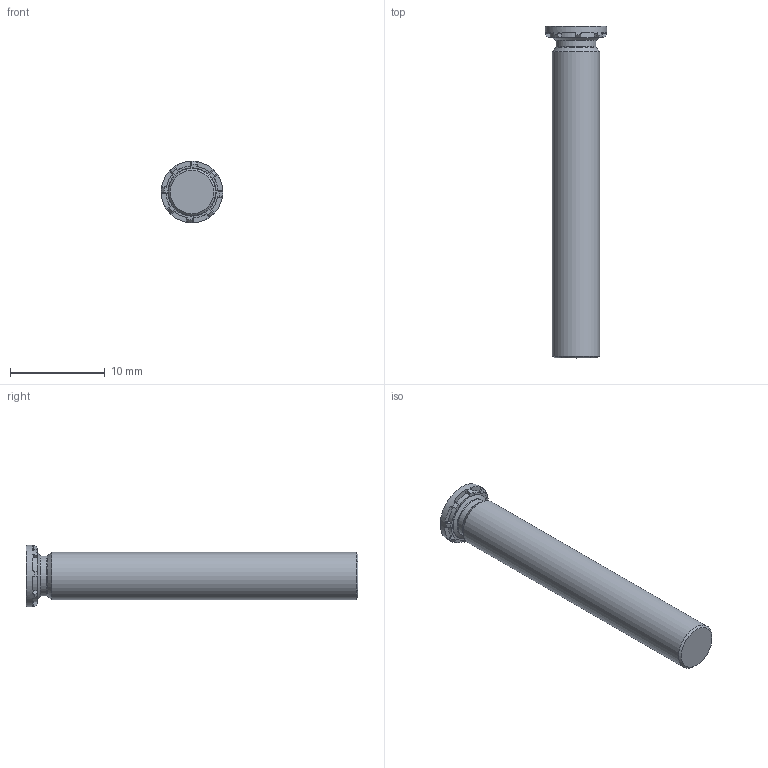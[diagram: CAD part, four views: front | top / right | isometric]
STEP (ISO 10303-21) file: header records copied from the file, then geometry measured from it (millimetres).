
FILE_DESCRIPTION(/* description */ (''),/* implementation_level */ '2;1');
FILE_NAME(/* name */ 'C:\Users\keval.kumar\Desktop\Fastit\Clinch Screw- FH Range\M5\Clinch Screw-FH Range_M5x35.stp',/* time_stamp */ '2024-03-12T12:01:34+06:00',/* author */ ('keval.kumar'),/* organization */ (''),/* preprocessor_version */ 'ST-DEVELOPER v18.1',/* originating_system */ 'Autodesk Inventor 2022',/* authorisation */ '');
FILE_SCHEMA (('AUTOMOTIVE_DESIGN { 1 0 10303 214 3 1 1 }'));
Length unit declared in the file: millimetre
Products named in the file (1): Clinch Screw-FH Range_M5x35
Bounding box: 6.5 x 35 x 6.5 mm (x, y, z)
Volume: 693.1 mm3; surface area: 622.9 mm2
Topology: 1 solids, 1 shells, 68 faces, 193 edges, 128 vertices
Faces by surface type: plane 43, cylinder 12, cone 11, torus 2
Full cylindrical faces by diameter (mm): 4.2 x1, 5 x1, 5.1 x1, 6.5 x1
Entity records: 2286 total; most frequent: DIRECTION 413, CARTESIAN_POINT 406, ORIENTED_EDGE 386, EDGE_CURVE 193, AXIS2_PLACEMENT_3D 159, VERTEX_POINT 128, LINE 95, VECTOR 95
